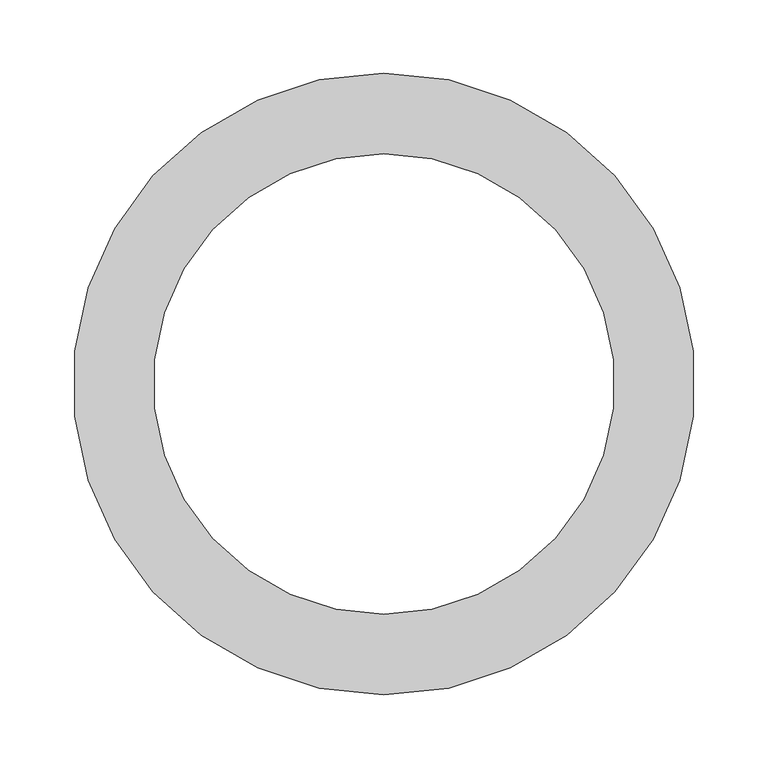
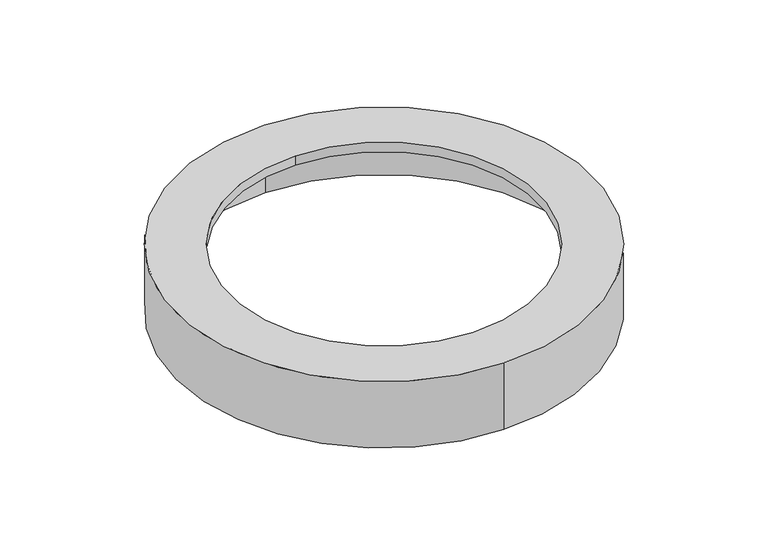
"""IFC4 building model written with IfcOpenShell, lengths in millimetres: valve geometry, Pipelife - Studnia PRO - Uszczelka teleskopowa : 425/315."""

from ifc_helpers import new_model, si_unit, frame, origin, place, context, project, spatial, polyline, circle_curve, source, transform, mapped, element, save
from ifc_brep_helpers import plane_surface, cylinder_surface, revolved_surface, advanced_brep


def valve_bdd338f0(model_context):
    return source(origin(), model_context, "Body", "AdvancedBrep", [
        advanced_brep(
        [(0.0, 212.5, 72.0), (0.0, -212.5, 72.0), (0.0, -157.5, 72.0), (0.0, 157.5, 72.0), (0.0, 212.5, 0.0), (0.0, -212.5, 0.0), (0.0, 210.5, 0.0), (0.0, -210.5, 0.0), (0.0, 210.5, 62.0), (0.0, -210.5, 62.0), (0.0, 157.5, 62.0), (0.0, -157.5, 62.0)],
        [
            (0, 1, circle_curve(frame((0.0, 0.0, 72.0), z_axis=(0.0, 0.0, 1.0), x_axis=(0.0, -1.0, 0.0)), 212.5)),
            (1, 0, circle_curve(frame((0.0, 0.0, 72.0), z_axis=(0.0, 0.0, 1.0), x_axis=(0.0, -1.0, 0.0)), 212.5)),
            (2, 3, circle_curve(frame((0.0, 0.0, 72.0), z_axis=(0.0, 0.0, -1.0), x_axis=(0.0, -1.0, 0.0)), 157.5)),
            (3, 2, circle_curve(frame((0.0, 0.0, 72.0), z_axis=(0.0, 0.0, -1.0), x_axis=(0.0, -1.0, 0.0)), 157.5)),
            (4, 5, circle_curve(frame((0.0, 0.0, 0.0), z_axis=(0.0, 0.0, -1.0), x_axis=(0.0, -1.0, 0.0)), 212.5)),
            (5, 4, circle_curve(frame((0.0, 0.0, 0.0), z_axis=(0.0, 0.0, -1.0), x_axis=(0.0, -1.0, 0.0)), 212.5)),
            (6, 7, circle_curve(frame((0.0, 0.0, 0.0), z_axis=(0.0, 0.0, 1.0), x_axis=(0.0, -1.0, 0.0)), 210.5)),
            (7, 6, circle_curve(frame((0.0, 0.0, 0.0), z_axis=(0.0, 0.0, 1.0), x_axis=(0.0, -1.0, 0.0)), 210.5)),
            (0, 4),
            (5, 1),
            (8, 9, circle_curve(frame((0.0, 0.0, 62.0), z_axis=(0.0, 0.0, -1.0), x_axis=(0.0, -1.0, 0.0)), 210.5)),
            (9, 8, circle_curve(frame((0.0, 0.0, 62.0), z_axis=(0.0, 0.0, -1.0), x_axis=(0.0, -1.0, 0.0)), 210.5)),
            (10, 11, circle_curve(frame((0.0, 0.0, 62.0), z_axis=(0.0, 0.0, 1.0), x_axis=(0.0, -1.0, 0.0)), 157.5)),
            (11, 10, circle_curve(frame((0.0, 0.0, 62.0), z_axis=(0.0, 0.0, 1.0), x_axis=(0.0, -1.0, 0.0)), 157.5)),
            (9, 7),
            (6, 8),
            (2, 11),
            (10, 3),
        ],
        [
            plane_surface(frame((0.0, 0.0, 72.0), z_axis=(0.0, 0.0, 1.0), x_axis=(0.0, -1.0, 0.0))),
            plane_surface(frame((0.0, 0.0, 0.0), z_axis=(0.0, 0.0, -1.0), x_axis=(0.0, -1.0, 0.0))),
            cylinder_surface(frame((0.0, 0.0, 72.0), z_axis=(0.0, 0.0, 1.0), x_axis=(0.0, -1.0, 0.0)), 212.5),
            plane_surface(frame((0.0, 0.0, 62.0), z_axis=(0.0, 0.0, -1.0), x_axis=(0.0, -1.0, 0.0))),
            revolved_surface(polyline([(0.0, -210.5, 62.0), (0.0, -210.5, 0.0)]), (0.0, 0.0, 62.0), (0.0, 0.0, 1.0)),
            revolved_surface(polyline([(0.0, -157.5, 72.0), (0.0, -157.5, 62.0)]), (0.0, 0.0, 72.0), (0.0, 0.0, 1.0)),
        ],
        [
            (0, [[1, 2], [3, 4]]),
            (1, [[5, 6], [7, 8]]),
            (2, [[-1, 9, -6, 10]]),
            (2, [[-2, -10, -5, -9]]),
            (3, [[11, 12], [13, 14]]),
            (4, [[-12, 15, -7, 16]]),
            (4, [[-11, -16, -8, -15]]),
            (5, [[17, -13, 18, -3]]),
            (5, [[-17, -4, -18, -14]]),
        ],
    ),
    ])


if __name__ == "__main__":
    model = new_model("IFC4")
    model_context = context("Model", 3, world=origin())
    ifc_project = project(units=[si_unit("LENGTHUNIT", "METRE", prefix="MILLI")], contexts=[model_context])
    site = spatial("IfcSite", under=ifc_project)
    building = spatial("IfcBuilding", under=site)
    placement = place(None, origin())
    valve_shape = valve_bdd338f0(model_context)
    element("IfcValve", 1, ObjectType="Pipelife - Studnia PRO - Uszczelka teleskopowa : 425/315", at=placement, inside=building, context=model_context, shape_type="MappedRepresentation", body=[
        mapped(valve_shape, transform((0.0, 0.0, 0.0), x_axis=(1.0, 0.0, 0.0), y_axis=(0.0, 1.0, 0.0), z_axis=(0.0, 0.0, 1.0))),
    ])
    save(model, "model.ifc")
